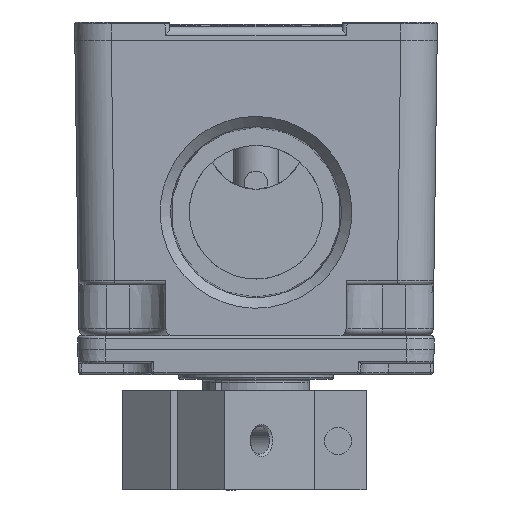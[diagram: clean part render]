
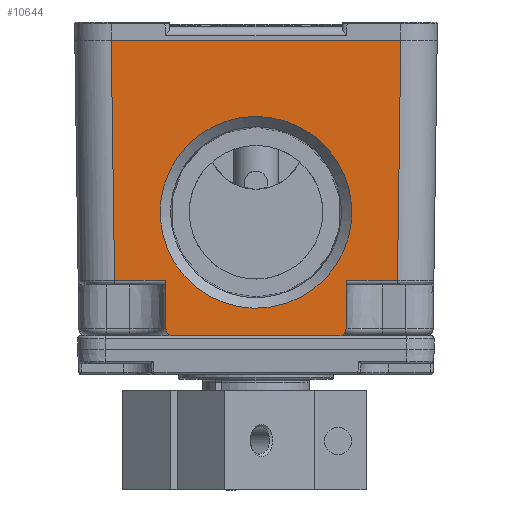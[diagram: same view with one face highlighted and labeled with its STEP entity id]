
A CAD part, left-side view. The second image highlights one B-rep face of the part: STEP entity #10644.
In plain terms, the highlighted planar face has unit normal (-1, 0, -0.011).
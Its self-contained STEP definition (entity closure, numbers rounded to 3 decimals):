
#7409 = VERTEX_POINT('',#7410);
#7410 = CARTESIAN_POINT('',(-33.671,-8.873,0.));
#7416 = EDGE_CURVE('',#7409,#7417,#7419,.T.);
#7417 = VERTEX_POINT('',#7418);
#7418 = CARTESIAN_POINT('',(-33.671,9.314,0.));
#7419 = LINE('',#7420,#7421);
#7420 = CARTESIAN_POINT('',(-33.671,0.22,0.));
#7421 = VECTOR('',#7422,1.);
#7422 = DIRECTION('',(0.,1.,0.));
#7575 = EDGE_CURVE('',#7576,#7578,#7580,.T.);
#7576 = VERTEX_POINT('',#7577);
#7577 = CARTESIAN_POINT('',(-33.735,-15.324,
    6.095));
#7578 = VERTEX_POINT('',#7579);
#7579 = CARTESIAN_POINT('',(-34.011,-15.693,32.5));
#7580 = LINE('',#7581,#7582);
#7581 = CARTESIAN_POINT('',(-34.009,-15.69,
    32.278));
#7582 = VECTOR('',#7583,1.);
#7583 = DIRECTION('',(-0.01,-0.014,
    1.));
#9224 = VERTEX_POINT('',#9225);
#9225 = CARTESIAN_POINT('',(-34.011,16.134,32.5));
#9231 = EDGE_CURVE('',#9224,#7578,#9232,.T.);
#9232 = LINE('',#9233,#9234);
#9233 = CARTESIAN_POINT('',(-34.011,0.22,32.5));
#9234 = VECTOR('',#9235,1.);
#9235 = DIRECTION('',(0.,-1.,0.));
#10644 = ADVANCED_FACE('',(#10645,#10670),#10729,.F.);
#10645 = FACE_BOUND('',#10646,.T.);
#10646 = EDGE_LOOP('',(#10647));
#10647 = ORIENTED_EDGE('',*,*,#10648,.T.);
#10648 = EDGE_CURVE('',#10649,#10649,#10651,.T.);
#10649 = VERTEX_POINT('',#10650);
#10650 = CARTESIAN_POINT('',(-33.924,0.22,
    24.124));
#10651 = B_SPLINE_CURVE_WITH_KNOTS('',3,(#10652,#10653,#10654,#10655,
    #10656,#10657,#10658,#10659,#10660,#10661,#10662,#10663,#10664,
    #10665,#10666,#10667,#10668,#10669),.UNSPECIFIED.,.T.,.F.,(2,2,2,2,2
    ,2,2,2,2,2,2),(-0.125,0.,0.125,0.25,0.375,0.5,0.625,0.75,0.875,1.,
    1.125),.UNSPECIFIED.);
#10652 = CARTESIAN_POINT('',(-33.924,2.984,
    24.124));
#10653 = CARTESIAN_POINT('',(-33.924,-2.543,
    24.124));
#10654 = CARTESIAN_POINT('',(-33.912,-5.28,
    22.991));
#10655 = CARTESIAN_POINT('',(-33.871,-9.189,
    19.082));
#10656 = CARTESIAN_POINT('',(-33.842,-10.322,
    16.346));
#10657 = CARTESIAN_POINT('',(-33.784,-10.322,
    10.818));
#10658 = CARTESIAN_POINT('',(-33.756,-9.189,
    8.081));
#10659 = CARTESIAN_POINT('',(-33.715,-5.28,
    4.173));
#10660 = CARTESIAN_POINT('',(-33.703,-2.543,
    3.039));
#10661 = CARTESIAN_POINT('',(-33.703,2.984,
    3.039));
#10662 = CARTESIAN_POINT('',(-33.715,5.721,
    4.173));
#10663 = CARTESIAN_POINT('',(-33.756,9.63,
    8.081));
#10664 = CARTESIAN_POINT('',(-33.784,10.763,
    10.818));
#10665 = CARTESIAN_POINT('',(-33.842,10.763,
    16.346));
#10666 = CARTESIAN_POINT('',(-33.871,9.63,
    19.082));
#10667 = CARTESIAN_POINT('',(-33.912,5.721,
    22.991));
#10668 = CARTESIAN_POINT('',(-33.924,2.984,
    24.124));
#10669 = CARTESIAN_POINT('',(-33.924,-2.543,
    24.124));
#10670 = FACE_BOUND('',#10671,.T.);
#10671 = EDGE_LOOP('',(#10672,#10673,#10682,#10690,#10696,#10697,#10698,
    #10706,#10714,#10722));
#10672 = ORIENTED_EDGE('',*,*,#7416,.F.);
#10673 = ORIENTED_EDGE('',*,*,#10674,.T.);
#10674 = EDGE_CURVE('',#7409,#10675,#10677,.T.);
#10675 = VERTEX_POINT('',#10676);
#10676 = CARTESIAN_POINT('',(-33.679,-9.673,
    0.789));
#10677 = ELLIPSE('',#10678,0.8,0.8);
#10678 = AXIS2_PLACEMENT_3D('',#10679,#10680,#10681);
#10679 = CARTESIAN_POINT('',(-33.679,-8.873,0.8));
#10680 = DIRECTION('',(-1.,0.,
    -0.01));
#10681 = DIRECTION('',(0.01,0.,
    -1.));
#10682 = ORIENTED_EDGE('',*,*,#10683,.T.);
#10683 = EDGE_CURVE('',#10675,#10684,#10686,.T.);
#10684 = VERTEX_POINT('',#10685);
#10685 = CARTESIAN_POINT('',(-33.735,-9.748,
    6.095));
#10686 = LINE('',#10687,#10688);
#10687 = CARTESIAN_POINT('',(-34.01,-10.119,
    32.354));
#10688 = VECTOR('',#10689,1.);
#10689 = DIRECTION('',(-0.01,-0.014,
    1.));
#10690 = ORIENTED_EDGE('',*,*,#10691,.T.);
#10691 = EDGE_CURVE('',#10684,#7576,#10692,.T.);
#10692 = LINE('',#10693,#10694);
#10693 = CARTESIAN_POINT('',(-33.735,-15.317,
    6.095));
#10694 = VECTOR('',#10695,1.);
#10695 = DIRECTION('',(0.,-1.,0.));
#10696 = ORIENTED_EDGE('',*,*,#7575,.T.);
#10697 = ORIENTED_EDGE('',*,*,#9231,.F.);
#10698 = ORIENTED_EDGE('',*,*,#10699,.F.);
#10699 = EDGE_CURVE('',#10700,#9224,#10702,.T.);
#10700 = VERTEX_POINT('',#10701);
#10701 = CARTESIAN_POINT('',(-33.735,15.765,
    6.095));
#10702 = LINE('',#10703,#10704);
#10703 = CARTESIAN_POINT('',(-34.008,16.13,
    32.198));
#10704 = VECTOR('',#10705,1.);
#10705 = DIRECTION('',(-0.01,0.014,
    1.));
#10706 = ORIENTED_EDGE('',*,*,#10707,.T.);
#10707 = EDGE_CURVE('',#10700,#10708,#10710,.T.);
#10708 = VERTEX_POINT('',#10709);
#10709 = CARTESIAN_POINT('',(-33.735,10.189,
    6.095));
#10710 = LINE('',#10711,#10712);
#10711 = CARTESIAN_POINT('',(-33.735,0.22,
    6.095));
#10712 = VECTOR('',#10713,1.);
#10713 = DIRECTION('',(0.,-1.,0.));
#10714 = ORIENTED_EDGE('',*,*,#10715,.T.);
#10715 = EDGE_CURVE('',#10708,#10716,#10718,.T.);
#10716 = VERTEX_POINT('',#10717);
#10717 = CARTESIAN_POINT('',(-33.679,10.114,
    0.789));
#10718 = LINE('',#10719,#10720);
#10719 = CARTESIAN_POINT('',(-34.01,10.56,
    32.354));
#10720 = VECTOR('',#10721,1.);
#10721 = DIRECTION('',(0.01,-0.014,
    -1.));
#10722 = ORIENTED_EDGE('',*,*,#10723,.T.);
#10723 = EDGE_CURVE('',#10716,#7417,#10724,.T.);
#10724 = ELLIPSE('',#10725,0.8,0.8);
#10725 = AXIS2_PLACEMENT_3D('',#10726,#10727,#10728);
#10726 = CARTESIAN_POINT('',(-33.679,9.314,0.8));
#10727 = DIRECTION('',(-1.,0.,-0.01));
#10728 = DIRECTION('',(-0.01,0.,1.));
#10729 = PLANE('',#10730);
#10730 = AXIS2_PLACEMENT_3D('',#10731,#10732,#10733);
#10731 = CARTESIAN_POINT('',(-34.011,0.22,32.5));
#10732 = DIRECTION('',(1.,0.,0.01));
#10733 = DIRECTION('',(0.01,0.,-1.));
